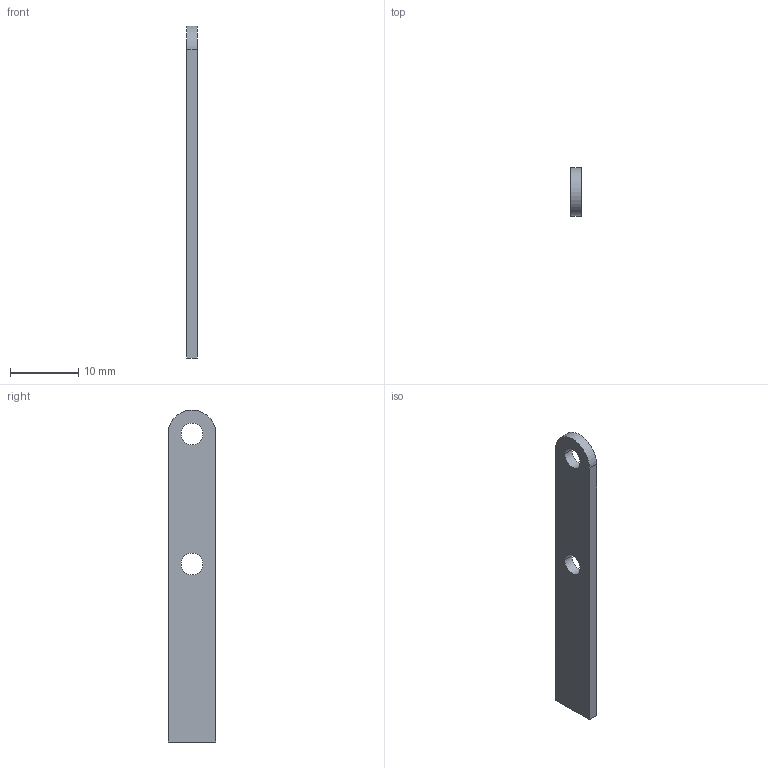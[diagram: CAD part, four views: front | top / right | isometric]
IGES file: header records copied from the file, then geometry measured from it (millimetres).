
Start section: START RECORD GO HERE.
Global section: file name: 20M_EL_09012 (bracket BSPD).igs; native system: IBM CATIA IGES - CATIA Version 5 Release 19 ; preprocessor: CATIA Version 5 Release 19 ; author: Mathieu Jacquet; organization: MBPRO; date: 20200123.201610; units: millimetre
Bounding box: 1.5 x 7 x 48.5 mm (x, y, z)
Surface area: 828.5 mm2 (no closed solid volume)
Topology: 0 solids, 0 shells, 10 faces, 48 edges, 48 vertices
Faces by surface type: plane 5, revolution 5
